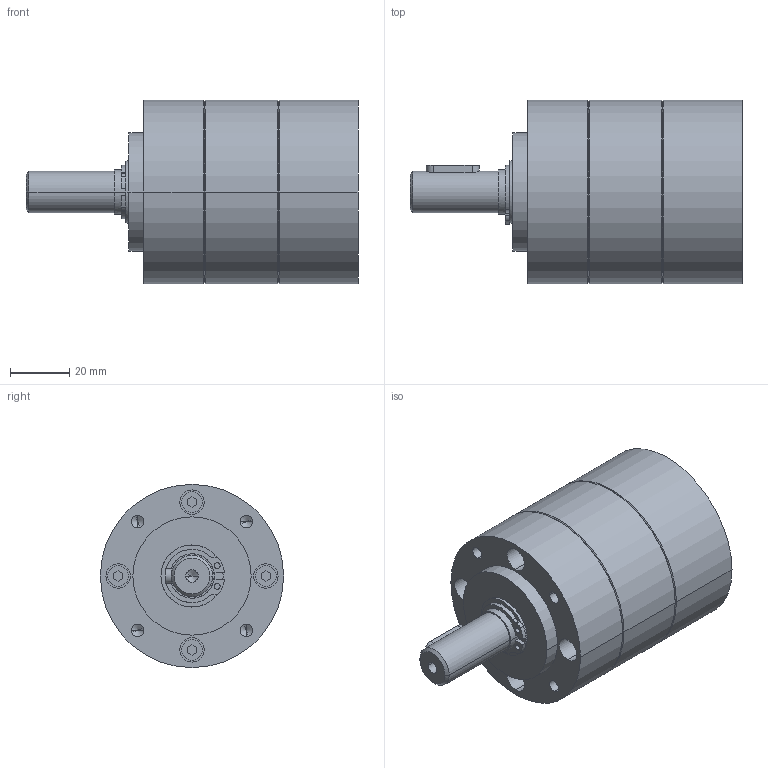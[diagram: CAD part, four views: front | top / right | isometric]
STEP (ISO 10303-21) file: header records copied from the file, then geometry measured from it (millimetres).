
FILE_DESCRIPTION((''),'2;1');
FILE_NAME('110499_GP62A-1ST','2017-11-21T',('mmagpetk'),(''),'CREO PARAMETRIC BY PTC INC, 2017020','CREO PARAMETRIC BY PTC INC, 2017020','');
FILE_SCHEMA(('CONFIG_CONTROL_DESIGN'));
Length unit declared in the file: millimetre
Products named in the file (1): 110499_GP62A-1ST
Bounding box: 112.3 x 62 x 62 mm (x, y, z)
Volume: 228104 mm3; surface area: 24930.6 mm2
Topology: 1 solids, 1 shells, 128 faces, 306 edges, 192 vertices
Faces by surface type: plane 55, cylinder 53, cone 20
Entity records: 5353 total; most frequent: DIRECTION 673, CARTESIAN_POINT 644, ORIENTED_EDGE 592, PRESENTATION_STYLE_ASSIGNMENT 353, STYLED_ITEM 297, CURVE_STYLE 296, EDGE_CURVE 296, AXIS2_PLACEMENT_3D 253
